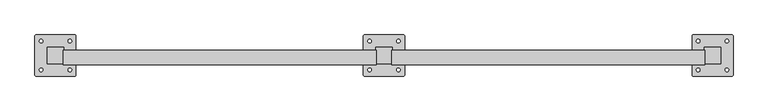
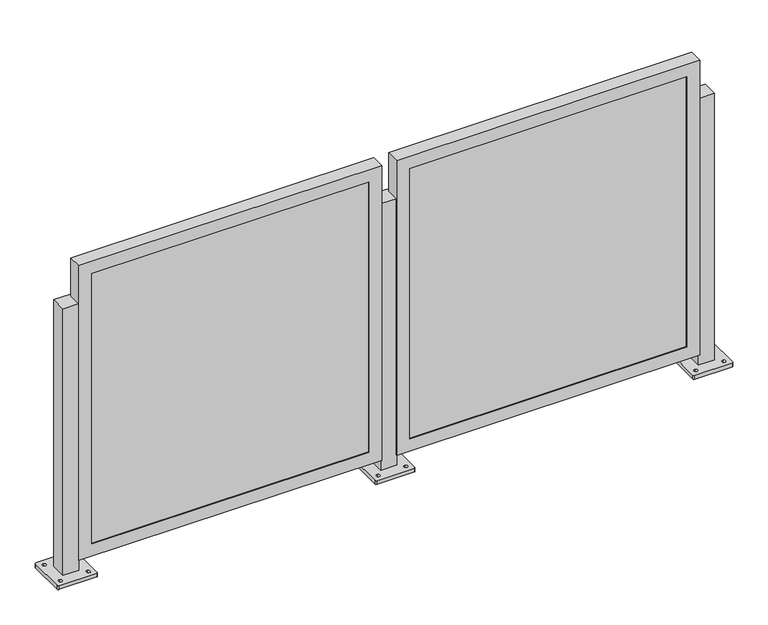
"""IFC4 building model written with IfcOpenShell, lengths in millimetres: railing geometry, Railing - Amico Architectural - Perforated Railing - Crescent."""

from ifc_helpers import new_model, si_unit, frame, origin, place, context, project, spatial, polyline, circle_curve, outline, extrude, faceted_brep, source, transform, mapped, element, save
from ifc_brep_helpers import plane_surface, cylinder_surface, revolved_surface, advanced_brep


def railing_dd76d824(model_context):
    return source(origin(), model_context, "Body", "SolidModel", [
        advanced_brep(
        [(-26967.9348337, -3793.9525624, 914.4), (-26967.9348337, -3844.7525624, 914.4), (-26917.1348337, -3844.7525624, 914.4), (-26917.1348337, -3793.9525624, 914.4), (-27006.0348339, -3879.6775213, 0.0), (-27006.0348339, -3759.0276034, 0.0), (-27002.8598057, -3755.8525752, 0.0), (-26882.2098617, -3755.8525752, 0.0), (-26879.0348335, -3759.0276034, 0.0), (-26879.0348335, -3879.6775213, 0.0), (-26882.2098617, -3882.8525495, 0.0), (-27002.8598057, -3882.8525495, 0.0), (-26986.9848212, -3869.358817, 0.0), (-26986.9848212, -3858.2463046, 0.0), (-26986.9848321, -3780.4588126, 0.0), (-26986.9848321, -3769.346331, 0.0), (-26898.0848203, -3869.3588155, 0.0), (-26898.0848203, -3858.2463048, 0.0), (-26898.0848312, -3780.4588111, 0.0), (-26898.0848312, -3769.3463313, 0.0), (-26967.9348337, -3793.9525624, 12.7), (-26967.9348337, -3844.7525624, 12.7), (-26917.1348337, -3844.7525624, 12.7), (-26917.1348337, -3793.9525624, 12.7), (-27006.0348339, -3879.6775213, 12.7), (-27002.8598057, -3882.8525495, 12.7), (-26882.2098617, -3882.8525495, 12.7), (-26879.0348335, -3879.6775213, 12.7), (-26879.0348335, -3759.0276034, 12.7), (-26882.2098617, -3755.8525752, 12.7), (-27002.8598057, -3755.8525752, 12.7), (-27006.0348339, -3759.0276034, 12.7), (-26986.9848212, -3869.358817, 12.7), (-26986.9848212, -3858.2463046, 12.7), (-26986.9848321, -3780.4588126, 12.7), (-26986.9848321, -3769.346331, 12.7), (-26898.0848203, -3869.3588155, 12.7), (-26898.0848203, -3858.2463048, 12.7), (-26898.0848312, -3780.4588111, 12.7), (-26898.0848312, -3769.3463313, 12.7)],
        [
            (0, 1),
            (1, 2),
            (2, 3),
            (3, 0),
            (4, 5),
            (5, 6, circle_curve(frame((-27002.8598057, -3759.0276034, 0.0), z_axis=(0.0, 0.0, -1.0), x_axis=(0.0, 1.0, 0.0)), 3.1750282)),
            (6, 7),
            (7, 8, circle_curve(frame((-26882.2098617, -3759.0276034, 0.0), z_axis=(0.0, 0.0, -1.0), x_axis=(0.0, 1.0, 0.0)), 3.1750282)),
            (8, 9),
            (9, 10, circle_curve(frame((-26882.2098617, -3879.6775213, 0.0), z_axis=(0.0, 0.0, -1.0), x_axis=(0.0, 1.0, 0.0)), 3.1750282)),
            (10, 11),
            (11, 4, circle_curve(frame((-27002.8598057, -3879.6775213, 0.0), z_axis=(0.0, 0.0, -1.0), x_axis=(0.0, 1.0, 0.0)), 3.1750282)),
            (12, 13, circle_curve(frame((-26986.9848212, -3863.8025608, 0.0), z_axis=(0.0, 0.0, 1.0), x_axis=(0.0, 1.0, 0.0)), 5.5562562)),
            (13, 12, circle_curve(frame((-26986.9848212, -3863.8025608, 0.0), z_axis=(0.0, 0.0, 1.0), x_axis=(0.0, 1.0, 0.0)), 5.5562562)),
            (14, 15, circle_curve(frame((-26986.9848321, -3774.9025718, 0.0), z_axis=(0.0, 0.0, 1.0), x_axis=(0.0, 1.0, 0.0)), 5.5562408)),
            (15, 14, circle_curve(frame((-26986.9848321, -3774.9025718, 0.0), z_axis=(0.0, 0.0, 1.0), x_axis=(0.0, 1.0, 0.0)), 5.5562408)),
            (16, 17, circle_curve(frame((-26898.0848203, -3863.8025601, 0.0), z_axis=(0.0, 0.0, 1.0), x_axis=(0.0, 1.0, 0.0)), 5.5562553)),
            (17, 16, circle_curve(frame((-26898.0848203, -3863.8025601, 0.0), z_axis=(0.0, 0.0, 1.0), x_axis=(0.0, 1.0, 0.0)), 5.5562553)),
            (18, 19, circle_curve(frame((-26898.0848312, -3774.9025712, 0.0), z_axis=(0.0, 0.0, 1.0), x_axis=(0.0, 1.0, 0.0)), 5.5562399)),
            (19, 18, circle_curve(frame((-26898.0848312, -3774.9025712, 0.0), z_axis=(0.0, 0.0, 1.0), x_axis=(0.0, 1.0, 0.0)), 5.5562399)),
            (0, 20),
            (20, 21),
            (21, 1),
            (21, 22),
            (22, 2),
            (22, 23),
            (23, 3),
            (23, 20),
            (24, 25, circle_curve(frame((-27002.8598057, -3879.6775213, 12.7), z_axis=(0.0, 0.0, 1.0), x_axis=(0.0, 1.0, 0.0)), 3.1750282)),
            (25, 26),
            (26, 27, circle_curve(frame((-26882.2098617, -3879.6775213, 12.7), z_axis=(0.0, 0.0, 1.0), x_axis=(0.0, 1.0, 0.0)), 3.1750282)),
            (27, 28),
            (28, 29, circle_curve(frame((-26882.2098617, -3759.0276034, 12.7), z_axis=(0.0, 0.0, 1.0), x_axis=(0.0, 1.0, 0.0)), 3.1750282)),
            (29, 30),
            (30, 31, circle_curve(frame((-27002.8598057, -3759.0276034, 12.7), z_axis=(0.0, 0.0, 1.0), x_axis=(0.0, 1.0, 0.0)), 3.1750282)),
            (31, 24),
            (32, 33, circle_curve(frame((-26986.9848212, -3863.8025608, 12.7), z_axis=(0.0, 0.0, -1.0), x_axis=(0.0, 1.0, 0.0)), 5.5562562)),
            (33, 32, circle_curve(frame((-26986.9848212, -3863.8025608, 12.7), z_axis=(0.0, 0.0, -1.0), x_axis=(0.0, 1.0, 0.0)), 5.5562562)),
            (34, 35, circle_curve(frame((-26986.9848321, -3774.9025718, 12.7), z_axis=(0.0, 0.0, -1.0), x_axis=(0.0, 1.0, 0.0)), 5.5562408)),
            (35, 34, circle_curve(frame((-26986.9848321, -3774.9025718, 12.7), z_axis=(0.0, 0.0, -1.0), x_axis=(0.0, 1.0, 0.0)), 5.5562408)),
            (36, 37, circle_curve(frame((-26898.0848203, -3863.8025601, 12.7), z_axis=(0.0, 0.0, -1.0), x_axis=(0.0, 1.0, 0.0)), 5.5562553)),
            (37, 36, circle_curve(frame((-26898.0848203, -3863.8025601, 12.7), z_axis=(0.0, 0.0, -1.0), x_axis=(0.0, 1.0, 0.0)), 5.5562553)),
            (38, 39, circle_curve(frame((-26898.0848312, -3774.9025712, 12.7), z_axis=(0.0, 0.0, -1.0), x_axis=(0.0, 1.0, 0.0)), 5.5562399)),
            (39, 38, circle_curve(frame((-26898.0848312, -3774.9025712, 12.7), z_axis=(0.0, 0.0, -1.0), x_axis=(0.0, 1.0, 0.0)), 5.5562399)),
            (24, 4),
            (11, 25),
            (10, 26),
            (9, 27),
            (8, 28),
            (7, 29),
            (6, 30),
            (5, 31),
            (32, 12),
            (13, 33),
            (34, 14),
            (15, 35),
            (36, 16),
            (17, 37),
            (38, 18),
            (19, 39),
        ],
        [
            plane_surface(frame((-26967.9348337, -3844.7525624, 914.4), z_axis=(0.0, 0.0, 1.0), x_axis=(0.0, -1.0, 0.0))),
            plane_surface(frame((-26967.9348337, -3844.7525624, 0.0), z_axis=(0.0, 0.0, -1.0), x_axis=(0.0, 1.0, 0.0))),
            plane_surface(frame((-26967.9348337, -3793.9525624, 914.4), z_axis=(-1.0, 0.0, 0.0), x_axis=(0.0, 0.0, -1.0))),
            plane_surface(frame((-26967.9348337, -3844.7525624, 914.4), z_axis=(0.0, -1.0, 0.0), x_axis=(0.0, 0.0, -1.0))),
            plane_surface(frame((-26917.1348337, -3844.7525624, 914.4), z_axis=(1.0, 0.0, 0.0), x_axis=(0.0, 0.0, -1.0))),
            plane_surface(frame((-26917.1348337, -3793.9525624, 914.4), z_axis=(0.0, 1.0, 0.0), x_axis=(0.0, 0.0, -1.0))),
            plane_surface(frame((-27002.8598057, -3876.5024932, 12.7), z_axis=(0.0, 0.0, 1.0), x_axis=(-1.0, 0.0, 0.0))),
            cylinder_surface(frame((-27002.8598057, -3879.6775213, 0.0), z_axis=(0.0, 0.0, 1.0), x_axis=(0.0, 1.0, 0.0)), 3.1750282),
            plane_surface(frame((-27002.8598057, -3882.8525495, 12.7), z_axis=(1.1945386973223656e-12, -1.0, 0.0), x_axis=(0.0, 0.0, -1.0))),
            cylinder_surface(frame((-26882.2098617, -3879.6775213, 0.0), z_axis=(0.0, 0.0, 1.0), x_axis=(0.0, 1.0, 0.0)), 3.1750282),
            plane_surface(frame((-26879.0348335, -3879.6775213, 12.7), z_axis=(1.0, 0.0, 0.0), x_axis=(0.0, 0.0, -1.0))),
            cylinder_surface(frame((-26882.2098617, -3759.0276034, 0.0), z_axis=(0.0, 0.0, 1.0), x_axis=(0.0, 1.0, 0.0)), 3.1750282),
            plane_surface(frame((-26882.2098617, -3755.8525752, 12.7), z_axis=(-1.1946088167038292e-12, 1.0, 0.0), x_axis=(0.0, 0.0, -1.0))),
            cylinder_surface(frame((-27002.8598057, -3759.0276034, 0.0), z_axis=(0.0, 0.0, 1.0), x_axis=(0.0, 1.0, 0.0)), 3.1750282),
            plane_surface(frame((-27006.0348339, -3759.0276034, 12.7), z_axis=(-1.0, 0.0, 0.0), x_axis=(0.0, 0.0, -1.0))),
            revolved_surface(polyline([(-26986.9848212, -3858.2463046, 0.0), (-26986.9848212, -3858.2463046, 12.7)]), (-26986.9848212, -3863.8025608, 0.0), (0.0, 0.0, -1.0)),
            revolved_surface(polyline([(-26986.9848321, -3769.3463309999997, 0.0), (-26986.9848321, -3769.3463309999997, 12.7)]), (-26986.9848321, -3774.9025718, 0.0), (0.0, 0.0, -1.0)),
            revolved_surface(polyline([(-26898.0848203, -3858.2463048, 0.0), (-26898.0848203, -3858.2463048, 12.7)]), (-26898.0848203, -3863.8025601, 0.0), (0.0, 0.0, -1.0)),
            revolved_surface(polyline([(-26898.0848312, -3769.3463312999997, 0.0), (-26898.0848312, -3769.3463312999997, 12.7)]), (-26898.0848312, -3774.9025712, 0.0), (0.0, 0.0, -1.0)),
        ],
        [
            (0, [[1, 2, 3, 4]]),
            (1, [[5, 6, 7, 8, 9, 10, 11, 12], [13, 14], [15, 16], [17, 18], [19, 20]]),
            (2, [[-1, 21, 22, 23]]),
            (3, [[-2, -23, 24, 25]]),
            (4, [[-3, -25, 26, 27]]),
            (5, [[-4, -27, 28, -21]]),
            (6, [[29, 30, 31, 32, 33, 34, 35, 36], [-22, -28, -26, -24], [37, 38], [39, 40], [41, 42], [43, 44]]),
            (7, [[-29, 45, -12, 46]]),
            (8, [[-30, -46, -11, 47]]),
            (9, [[-31, -47, -10, 48]]),
            (10, [[-32, -48, -9, 49]]),
            (11, [[-33, -49, -8, 50]]),
            (12, [[-34, -50, -7, 51]]),
            (13, [[-35, -51, -6, 52]]),
            (14, [[-36, -52, -5, -45]]),
            (15, [[-37, 53, -14, 54]]),
            (15, [[-38, -54, -13, -53]]),
            (16, [[-39, 55, -16, 56]]),
            (16, [[-40, -56, -15, -55]]),
            (17, [[-41, 57, -18, 58]]),
            (17, [[-42, -58, -17, -57]]),
            (18, [[-43, 59, -20, 60]]),
            (18, [[-44, -60, -19, -59]]),
        ],
    ),
        faceted_brep([(-27934.3392871, -3847.4957624, 47.625), (-26965.9642871, -3847.4957624, 47.625), (-26965.9642871, -3847.4957624, 1044.575), (-27934.3392871, -3847.4957624, 1044.575), (-27893.0642871, -3847.4957624, 1003.3), (-27007.2392871, -3847.4957624, 1003.3), (-27007.2392871, -3847.4957624, 88.9), (-27893.0642871, -3847.4957624, 88.9), (-27893.0642871, -3844.7525624, 1003.3), (-27893.0642871, -3844.7525624, 88.9), (-27934.3392871, -3803.6224658, 1044.575), (-27934.3392871, -3803.6224658, 47.625), (-27931.1642871, -3803.6224658, 1041.4), (-27931.1642871, -3844.7525624, 1041.4), (-27931.1642871, -3844.7525624, 50.8), (-27931.1642871, -3803.6224658, 50.8), (-27007.2392871, -3844.7525624, 88.9), (-26965.9642871, -3803.6224658, 47.625), (-26969.1392871, -3844.7525624, 50.8), (-26969.1392871, -3803.6224658, 50.8), (-27007.2392871, -3844.7525624, 1003.3), (-26965.9642871, -3803.6224658, 1044.575), (-26969.1392871, -3844.7525624, 1041.4), (-26969.1392871, -3803.6224658, 1041.4)], [[[0, 1, 2, 3], [4, 5, 6, 7]], [[8, 4, 7, 9]], [[3, 10, 11, 0]], [[12, 13, 14, 15]], [[9, 7, 6, 16]], [[0, 11, 17, 1]], [[15, 14, 18, 19]], [[16, 6, 5, 20]], [[1, 17, 21, 2]], [[19, 18, 22, 23]], [[20, 5, 4, 8]], [[10, 21, 17, 11], [15, 19, 23, 12]], [[2, 21, 10, 3]], [[13, 22, 18, 14], [9, 16, 20, 8]], [[23, 22, 13, 12]]]),
        extrude(outline(polyline([(-27931.1642871, -3835.2275624), (-26969.1392871, -3835.2275624), (-26969.1392871, -3844.7525624), (-27931.1642871, -3844.7525624), (-27931.1642871, -3835.2275624)])), frame((0.0, 0.0, 50.8), z_axis=(0.0, 0.0, 1.0), x_axis=(1.0, 0.0, 0.0)), (0.0, 0.0, 1.0), 990.6),
        advanced_brep(
        [(-27983.9348337, -3793.9525624, 914.4), (-27983.9348337, -3844.7525624, 914.4), (-27933.1348337, -3844.7525624, 914.4), (-27933.1348337, -3793.9525624, 914.4), (-28022.0348339, -3879.6775213, 0.0), (-28022.0348339, -3759.0276034, 0.0), (-28018.8598057, -3755.8525752, 0.0), (-27898.2098617, -3755.8525752, 0.0), (-27895.0348335, -3759.0276034, 0.0), (-27895.0348335, -3879.6775213, 0.0), (-27898.2098617, -3882.8525495, 0.0), (-28018.8598057, -3882.8525495, 0.0), (-28002.9848212, -3869.358817, 0.0), (-28002.9848212, -3858.2463046, 0.0), (-28002.9848321, -3780.4588126, 0.0), (-28002.9848321, -3769.346331, 0.0), (-27914.0848203, -3869.3588155, 0.0), (-27914.0848203, -3858.2463048, 0.0), (-27914.0848312, -3780.4588111, 0.0), (-27914.0848312, -3769.3463313, 0.0), (-27983.9348337, -3793.9525624, 12.7), (-27983.9348337, -3844.7525624, 12.7), (-27933.1348337, -3844.7525624, 12.7), (-27933.1348337, -3793.9525624, 12.7), (-28022.0348339, -3879.6775213, 12.7), (-28018.8598057, -3882.8525495, 12.7), (-27898.2098617, -3882.8525495, 12.7), (-27895.0348335, -3879.6775213, 12.7), (-27895.0348335, -3759.0276034, 12.7), (-27898.2098617, -3755.8525752, 12.7), (-28018.8598057, -3755.8525752, 12.7), (-28022.0348339, -3759.0276034, 12.7), (-28002.9848212, -3869.358817, 12.7), (-28002.9848212, -3858.2463046, 12.7), (-28002.9848321, -3780.4588126, 12.7), (-28002.9848321, -3769.346331, 12.7), (-27914.0848203, -3869.3588155, 12.7), (-27914.0848203, -3858.2463048, 12.7), (-27914.0848312, -3780.4588111, 12.7), (-27914.0848312, -3769.3463313, 12.7)],
        [
            (0, 1),
            (1, 2),
            (2, 3),
            (3, 0),
            (4, 5),
            (5, 6, circle_curve(frame((-28018.8598057, -3759.0276034, 0.0), z_axis=(0.0, 0.0, -1.0), x_axis=(0.0, 1.0, 0.0)), 3.1750282)),
            (6, 7),
            (7, 8, circle_curve(frame((-27898.2098617, -3759.0276034, 0.0), z_axis=(0.0, 0.0, -1.0), x_axis=(0.0, 1.0, 0.0)), 3.1750282)),
            (8, 9),
            (9, 10, circle_curve(frame((-27898.2098617, -3879.6775213, 0.0), z_axis=(0.0, 0.0, -1.0), x_axis=(0.0, 1.0, 0.0)), 3.1750282)),
            (10, 11),
            (11, 4, circle_curve(frame((-28018.8598057, -3879.6775213, 0.0), z_axis=(0.0, 0.0, -1.0), x_axis=(0.0, 1.0, 0.0)), 3.1750282)),
            (12, 13, circle_curve(frame((-28002.9848212, -3863.8025608, 0.0), z_axis=(0.0, 0.0, 1.0), x_axis=(0.0, 1.0, 0.0)), 5.5562562)),
            (13, 12, circle_curve(frame((-28002.9848212, -3863.8025608, 0.0), z_axis=(0.0, 0.0, 1.0), x_axis=(0.0, 1.0, 0.0)), 5.5562562)),
            (14, 15, circle_curve(frame((-28002.9848321, -3774.9025718, 0.0), z_axis=(0.0, 0.0, 1.0), x_axis=(0.0, 1.0, 0.0)), 5.5562408)),
            (15, 14, circle_curve(frame((-28002.9848321, -3774.9025718, 0.0), z_axis=(0.0, 0.0, 1.0), x_axis=(0.0, 1.0, 0.0)), 5.5562408)),
            (16, 17, circle_curve(frame((-27914.0848203, -3863.8025601, 0.0), z_axis=(0.0, 0.0, 1.0), x_axis=(0.0, 1.0, 0.0)), 5.5562553)),
            (17, 16, circle_curve(frame((-27914.0848203, -3863.8025601, 0.0), z_axis=(0.0, 0.0, 1.0), x_axis=(0.0, 1.0, 0.0)), 5.5562553)),
            (18, 19, circle_curve(frame((-27914.0848312, -3774.9025712, 0.0), z_axis=(0.0, 0.0, 1.0), x_axis=(0.0, 1.0, 0.0)), 5.5562399)),
            (19, 18, circle_curve(frame((-27914.0848312, -3774.9025712, 0.0), z_axis=(0.0, 0.0, 1.0), x_axis=(0.0, 1.0, 0.0)), 5.5562399)),
            (0, 20),
            (20, 21),
            (21, 1),
            (21, 22),
            (22, 2),
            (22, 23),
            (23, 3),
            (23, 20),
            (24, 25, circle_curve(frame((-28018.8598057, -3879.6775213, 12.7), z_axis=(0.0, 0.0, 1.0), x_axis=(0.0, 1.0, 0.0)), 3.1750282)),
            (25, 26),
            (26, 27, circle_curve(frame((-27898.2098617, -3879.6775213, 12.7), z_axis=(0.0, 0.0, 1.0), x_axis=(0.0, 1.0, 0.0)), 3.1750282)),
            (27, 28),
            (28, 29, circle_curve(frame((-27898.2098617, -3759.0276034, 12.7), z_axis=(0.0, 0.0, 1.0), x_axis=(0.0, 1.0, 0.0)), 3.1750282)),
            (29, 30),
            (30, 31, circle_curve(frame((-28018.8598057, -3759.0276034, 12.7), z_axis=(0.0, 0.0, 1.0), x_axis=(0.0, 1.0, 0.0)), 3.1750282)),
            (31, 24),
            (32, 33, circle_curve(frame((-28002.9848212, -3863.8025608, 12.7), z_axis=(0.0, 0.0, -1.0), x_axis=(0.0, 1.0, 0.0)), 5.5562562)),
            (33, 32, circle_curve(frame((-28002.9848212, -3863.8025608, 12.7), z_axis=(0.0, 0.0, -1.0), x_axis=(0.0, 1.0, 0.0)), 5.5562562)),
            (34, 35, circle_curve(frame((-28002.9848321, -3774.9025718, 12.7), z_axis=(0.0, 0.0, -1.0), x_axis=(0.0, 1.0, 0.0)), 5.5562408)),
            (35, 34, circle_curve(frame((-28002.9848321, -3774.9025718, 12.7), z_axis=(0.0, 0.0, -1.0), x_axis=(0.0, 1.0, 0.0)), 5.5562408)),
            (36, 37, circle_curve(frame((-27914.0848203, -3863.8025601, 12.7), z_axis=(0.0, 0.0, -1.0), x_axis=(0.0, 1.0, 0.0)), 5.5562553)),
            (37, 36, circle_curve(frame((-27914.0848203, -3863.8025601, 12.7), z_axis=(0.0, 0.0, -1.0), x_axis=(0.0, 1.0, 0.0)), 5.5562553)),
            (38, 39, circle_curve(frame((-27914.0848312, -3774.9025712, 12.7), z_axis=(0.0, 0.0, -1.0), x_axis=(0.0, 1.0, 0.0)), 5.5562399)),
            (39, 38, circle_curve(frame((-27914.0848312, -3774.9025712, 12.7), z_axis=(0.0, 0.0, -1.0), x_axis=(0.0, 1.0, 0.0)), 5.5562399)),
            (24, 4),
            (11, 25),
            (10, 26),
            (9, 27),
            (8, 28),
            (7, 29),
            (6, 30),
            (5, 31),
            (32, 12),
            (13, 33),
            (34, 14),
            (15, 35),
            (36, 16),
            (17, 37),
            (38, 18),
            (19, 39),
        ],
        [
            plane_surface(frame((-27983.9348337, -3844.7525624, 914.4), z_axis=(0.0, 0.0, 1.0), x_axis=(0.0, -1.0, 0.0))),
            plane_surface(frame((-27983.9348337, -3844.7525624, 0.0), z_axis=(0.0, 0.0, -1.0), x_axis=(0.0, 1.0, 0.0))),
            plane_surface(frame((-27983.9348337, -3793.9525624, 914.4), z_axis=(-1.0, 0.0, 0.0), x_axis=(0.0, 0.0, -1.0))),
            plane_surface(frame((-27983.9348337, -3844.7525624, 914.4), z_axis=(0.0, -1.0, 0.0), x_axis=(0.0, 0.0, -1.0))),
            plane_surface(frame((-27933.1348337, -3844.7525624, 914.4), z_axis=(1.0, 0.0, 0.0), x_axis=(0.0, 0.0, -1.0))),
            plane_surface(frame((-27933.1348337, -3793.9525624, 914.4), z_axis=(0.0, 1.0, 0.0), x_axis=(0.0, 0.0, -1.0))),
            plane_surface(frame((-28018.8598057, -3876.5024932, 12.7), z_axis=(0.0, 0.0, 1.0), x_axis=(-1.0, 0.0, 0.0))),
            cylinder_surface(frame((-28018.8598057, -3879.6775213, 0.0), z_axis=(0.0, 0.0, 1.0), x_axis=(0.0, 1.0, 0.0)), 3.1750282),
            plane_surface(frame((-28018.8598057, -3882.8525495, 12.7), z_axis=(1.1945386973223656e-12, -1.0, 0.0), x_axis=(0.0, 0.0, -1.0))),
            cylinder_surface(frame((-27898.2098617, -3879.6775213, 0.0), z_axis=(0.0, 0.0, 1.0), x_axis=(0.0, 1.0, 0.0)), 3.1750282),
            plane_surface(frame((-27895.0348335, -3879.6775213, 12.7), z_axis=(1.0, 0.0, 0.0), x_axis=(0.0, 0.0, -1.0))),
            cylinder_surface(frame((-27898.2098617, -3759.0276034, 0.0), z_axis=(0.0, 0.0, 1.0), x_axis=(0.0, 1.0, 0.0)), 3.1750282),
            plane_surface(frame((-27898.2098617, -3755.8525752, 12.7), z_axis=(-1.1946088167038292e-12, 1.0, 0.0), x_axis=(0.0, 0.0, -1.0))),
            cylinder_surface(frame((-28018.8598057, -3759.0276034, 0.0), z_axis=(0.0, 0.0, 1.0), x_axis=(0.0, 1.0, 0.0)), 3.1750282),
            plane_surface(frame((-28022.0348339, -3759.0276034, 12.7), z_axis=(-1.0, 0.0, 0.0), x_axis=(0.0, 0.0, -1.0))),
            revolved_surface(polyline([(-28002.9848212, -3858.2463046, 0.0), (-28002.9848212, -3858.2463046, 12.7)]), (-28002.9848212, -3863.8025608, 0.0), (0.0, 0.0, -1.0)),
            revolved_surface(polyline([(-28002.9848321, -3769.3463309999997, 0.0), (-28002.9848321, -3769.3463309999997, 12.7)]), (-28002.9848321, -3774.9025718, 0.0), (0.0, 0.0, -1.0)),
            revolved_surface(polyline([(-27914.0848203, -3858.2463048, 0.0), (-27914.0848203, -3858.2463048, 12.7)]), (-27914.0848203, -3863.8025601, 0.0), (0.0, 0.0, -1.0)),
            revolved_surface(polyline([(-27914.0848312, -3769.3463312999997, 0.0), (-27914.0848312, -3769.3463312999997, 12.7)]), (-27914.0848312, -3774.9025712, 0.0), (0.0, 0.0, -1.0)),
        ],
        [
            (0, [[1, 2, 3, 4]]),
            (1, [[5, 6, 7, 8, 9, 10, 11, 12], [13, 14], [15, 16], [17, 18], [19, 20]]),
            (2, [[-1, 21, 22, 23]]),
            (3, [[-2, -23, 24, 25]]),
            (4, [[-3, -25, 26, 27]]),
            (5, [[-4, -27, 28, -21]]),
            (6, [[29, 30, 31, 32, 33, 34, 35, 36], [-22, -28, -26, -24], [37, 38], [39, 40], [41, 42], [43, 44]]),
            (7, [[-29, 45, -12, 46]]),
            (8, [[-30, -46, -11, 47]]),
            (9, [[-31, -47, -10, 48]]),
            (10, [[-32, -48, -9, 49]]),
            (11, [[-33, -49, -8, 50]]),
            (12, [[-34, -50, -7, 51]]),
            (13, [[-35, -51, -6, 52]]),
            (14, [[-36, -52, -5, -45]]),
            (15, [[-37, 53, -14, 54]]),
            (15, [[-38, -54, -13, -53]]),
            (16, [[-39, 55, -16, 56]]),
            (16, [[-40, -56, -15, -55]]),
            (17, [[-41, 57, -18, 58]]),
            (17, [[-42, -58, -17, -57]]),
            (18, [[-43, 59, -20, 60]]),
            (18, [[-44, -60, -19, -59]]),
        ],
    ),
        faceted_brep([(-28950.3392871, -3847.4957624, 47.625), (-27981.9642871, -3847.4957624, 47.625), (-27981.9642871, -3847.4957624, 1044.575), (-28950.3392871, -3847.4957624, 1044.575), (-28909.0642871, -3847.4957624, 1003.3), (-28023.2392871, -3847.4957624, 1003.3), (-28023.2392871, -3847.4957624, 88.9), (-28909.0642871, -3847.4957624, 88.9), (-28909.0642871, -3844.7525624, 1003.3), (-28909.0642871, -3844.7525624, 88.9), (-28950.3392871, -3803.6224658, 1044.575), (-28950.3392871, -3803.6224658, 47.625), (-28947.1642871, -3803.6224658, 1041.4), (-28947.1642871, -3844.7525624, 1041.4), (-28947.1642871, -3844.7525624, 50.8), (-28947.1642871, -3803.6224658, 50.8), (-28023.2392871, -3844.7525624, 88.9), (-27981.9642871, -3803.6224658, 47.625), (-27985.1392871, -3844.7525624, 50.8), (-27985.1392871, -3803.6224658, 50.8), (-28023.2392871, -3844.7525624, 1003.3), (-27981.9642871, -3803.6224658, 1044.575), (-27985.1392871, -3844.7525624, 1041.4), (-27985.1392871, -3803.6224658, 1041.4)], [[[0, 1, 2, 3], [4, 5, 6, 7]], [[8, 4, 7, 9]], [[3, 10, 11, 0]], [[12, 13, 14, 15]], [[9, 7, 6, 16]], [[0, 11, 17, 1]], [[15, 14, 18, 19]], [[16, 6, 5, 20]], [[1, 17, 21, 2]], [[19, 18, 22, 23]], [[20, 5, 4, 8]], [[10, 21, 17, 11], [15, 19, 23, 12]], [[2, 21, 10, 3]], [[13, 22, 18, 14], [9, 16, 20, 8]], [[23, 22, 13, 12]]]),
        extrude(outline(polyline([(-28947.1642871, -3835.2275624), (-27985.1392871, -3835.2275624), (-27985.1392871, -3844.7525624), (-28947.1642871, -3844.7525624), (-28947.1642871, -3835.2275624)])), frame((0.0, 0.0, 50.8), z_axis=(0.0, 0.0, 1.0), x_axis=(1.0, 0.0, 0.0)), (0.0, 0.0, 1.0), 990.6),
        advanced_brep(
        [(-28999.9348337, -3793.9525624, 914.4), (-28999.9348337, -3844.7525624, 914.4), (-28949.1348337, -3844.7525624, 914.4), (-28949.1348337, -3793.9525624, 914.4), (-29038.0348339, -3879.6775213, 0.0), (-29038.0348339, -3759.0276034, 0.0), (-29034.8598057, -3755.8525752, 0.0), (-28914.2098617, -3755.8525752, 0.0), (-28911.0348335, -3759.0276034, 0.0), (-28911.0348335, -3879.6775213, 0.0), (-28914.2098617, -3882.8525495, 0.0), (-29034.8598057, -3882.8525495, 0.0), (-29018.9848212, -3869.358817, 0.0), (-29018.9848212, -3858.2463046, 0.0), (-29018.9848321, -3780.4588126, 0.0), (-29018.9848321, -3769.346331, 0.0), (-28930.0848203, -3869.3588155, 0.0), (-28930.0848203, -3858.2463048, 0.0), (-28930.0848312, -3780.4588111, 0.0), (-28930.0848312, -3769.3463313, 0.0), (-28999.9348337, -3793.9525624, 12.7), (-28999.9348337, -3844.7525624, 12.7), (-28949.1348337, -3844.7525624, 12.7), (-28949.1348337, -3793.9525624, 12.7), (-29038.0348339, -3879.6775213, 12.7), (-29034.8598057, -3882.8525495, 12.7), (-28914.2098617, -3882.8525495, 12.7), (-28911.0348335, -3879.6775213, 12.7), (-28911.0348335, -3759.0276034, 12.7), (-28914.2098617, -3755.8525752, 12.7), (-29034.8598057, -3755.8525752, 12.7), (-29038.0348339, -3759.0276034, 12.7), (-29018.9848212, -3869.358817, 12.7), (-29018.9848212, -3858.2463046, 12.7), (-29018.9848321, -3780.4588126, 12.7), (-29018.9848321, -3769.346331, 12.7), (-28930.0848203, -3869.3588155, 12.7), (-28930.0848203, -3858.2463048, 12.7), (-28930.0848312, -3780.4588111, 12.7), (-28930.0848312, -3769.3463313, 12.7)],
        [
            (0, 1),
            (1, 2),
            (2, 3),
            (3, 0),
            (4, 5),
            (5, 6, circle_curve(frame((-29034.8598057, -3759.0276034, 0.0), z_axis=(0.0, 0.0, -1.0), x_axis=(0.0, 1.0, 0.0)), 3.1750282)),
            (6, 7),
            (7, 8, circle_curve(frame((-28914.2098617, -3759.0276034, 0.0), z_axis=(0.0, 0.0, -1.0), x_axis=(0.0, 1.0, 0.0)), 3.1750282)),
            (8, 9),
            (9, 10, circle_curve(frame((-28914.2098617, -3879.6775213, 0.0), z_axis=(0.0, 0.0, -1.0), x_axis=(0.0, 1.0, 0.0)), 3.1750282)),
            (10, 11),
            (11, 4, circle_curve(frame((-29034.8598057, -3879.6775213, 0.0), z_axis=(0.0, 0.0, -1.0), x_axis=(0.0, 1.0, 0.0)), 3.1750282)),
            (12, 13, circle_curve(frame((-29018.9848212, -3863.8025608, 0.0), z_axis=(0.0, 0.0, 1.0), x_axis=(0.0, 1.0, 0.0)), 5.5562562)),
            (13, 12, circle_curve(frame((-29018.9848212, -3863.8025608, 0.0), z_axis=(0.0, 0.0, 1.0), x_axis=(0.0, 1.0, 0.0)), 5.5562562)),
            (14, 15, circle_curve(frame((-29018.9848321, -3774.9025718, 0.0), z_axis=(0.0, 0.0, 1.0), x_axis=(0.0, 1.0, 0.0)), 5.5562408)),
            (15, 14, circle_curve(frame((-29018.9848321, -3774.9025718, 0.0), z_axis=(0.0, 0.0, 1.0), x_axis=(0.0, 1.0, 0.0)), 5.5562408)),
            (16, 17, circle_curve(frame((-28930.0848203, -3863.8025601, 0.0), z_axis=(0.0, 0.0, 1.0), x_axis=(0.0, 1.0, 0.0)), 5.5562553)),
            (17, 16, circle_curve(frame((-28930.0848203, -3863.8025601, 0.0), z_axis=(0.0, 0.0, 1.0), x_axis=(0.0, 1.0, 0.0)), 5.5562553)),
            (18, 19, circle_curve(frame((-28930.0848312, -3774.9025712, 0.0), z_axis=(0.0, 0.0, 1.0), x_axis=(0.0, 1.0, 0.0)), 5.5562399)),
            (19, 18, circle_curve(frame((-28930.0848312, -3774.9025712, 0.0), z_axis=(0.0, 0.0, 1.0), x_axis=(0.0, 1.0, 0.0)), 5.5562399)),
            (0, 20),
            (20, 21),
            (21, 1),
            (21, 22),
            (22, 2),
            (22, 23),
            (23, 3),
            (23, 20),
            (24, 25, circle_curve(frame((-29034.8598057, -3879.6775213, 12.7), z_axis=(0.0, 0.0, 1.0), x_axis=(0.0, 1.0, 0.0)), 3.1750282)),
            (25, 26),
            (26, 27, circle_curve(frame((-28914.2098617, -3879.6775213, 12.7), z_axis=(0.0, 0.0, 1.0), x_axis=(0.0, 1.0, 0.0)), 3.1750282)),
            (27, 28),
            (28, 29, circle_curve(frame((-28914.2098617, -3759.0276034, 12.7), z_axis=(0.0, 0.0, 1.0), x_axis=(0.0, 1.0, 0.0)), 3.1750282)),
            (29, 30),
            (30, 31, circle_curve(frame((-29034.8598057, -3759.0276034, 12.7), z_axis=(0.0, 0.0, 1.0), x_axis=(0.0, 1.0, 0.0)), 3.1750282)),
            (31, 24),
            (32, 33, circle_curve(frame((-29018.9848212, -3863.8025608, 12.7), z_axis=(0.0, 0.0, -1.0), x_axis=(0.0, 1.0, 0.0)), 5.5562562)),
            (33, 32, circle_curve(frame((-29018.9848212, -3863.8025608, 12.7), z_axis=(0.0, 0.0, -1.0), x_axis=(0.0, 1.0, 0.0)), 5.5562562)),
            (34, 35, circle_curve(frame((-29018.9848321, -3774.9025718, 12.7), z_axis=(0.0, 0.0, -1.0), x_axis=(0.0, 1.0, 0.0)), 5.5562408)),
            (35, 34, circle_curve(frame((-29018.9848321, -3774.9025718, 12.7), z_axis=(0.0, 0.0, -1.0), x_axis=(0.0, 1.0, 0.0)), 5.5562408)),
            (36, 37, circle_curve(frame((-28930.0848203, -3863.8025601, 12.7), z_axis=(0.0, 0.0, -1.0), x_axis=(0.0, 1.0, 0.0)), 5.5562553)),
            (37, 36, circle_curve(frame((-28930.0848203, -3863.8025601, 12.7), z_axis=(0.0, 0.0, -1.0), x_axis=(0.0, 1.0, 0.0)), 5.5562553)),
            (38, 39, circle_curve(frame((-28930.0848312, -3774.9025712, 12.7), z_axis=(0.0, 0.0, -1.0), x_axis=(0.0, 1.0, 0.0)), 5.5562399)),
            (39, 38, circle_curve(frame((-28930.0848312, -3774.9025712, 12.7), z_axis=(0.0, 0.0, -1.0), x_axis=(0.0, 1.0, 0.0)), 5.5562399)),
            (24, 4),
            (11, 25),
            (10, 26),
            (9, 27),
            (8, 28),
            (7, 29),
            (6, 30),
            (5, 31),
            (32, 12),
            (13, 33),
            (34, 14),
            (15, 35),
            (36, 16),
            (17, 37),
            (38, 18),
            (19, 39),
        ],
        [
            plane_surface(frame((-28999.9348337, -3844.7525624, 914.4), z_axis=(0.0, 0.0, 1.0), x_axis=(0.0, -1.0, 0.0))),
            plane_surface(frame((-28999.9348337, -3844.7525624, 0.0), z_axis=(0.0, 0.0, -1.0), x_axis=(0.0, 1.0, 0.0))),
            plane_surface(frame((-28999.9348337, -3793.9525624, 914.4), z_axis=(-1.0, 0.0, 0.0), x_axis=(0.0, 0.0, -1.0))),
            plane_surface(frame((-28999.9348337, -3844.7525624, 914.4), z_axis=(0.0, -1.0, 0.0), x_axis=(0.0, 0.0, -1.0))),
            plane_surface(frame((-28949.1348337, -3844.7525624, 914.4), z_axis=(1.0, 0.0, 0.0), x_axis=(0.0, 0.0, -1.0))),
            plane_surface(frame((-28949.1348337, -3793.9525624, 914.4), z_axis=(0.0, 1.0, 0.0), x_axis=(0.0, 0.0, -1.0))),
            plane_surface(frame((-29034.8598057, -3876.5024932, 12.7), z_axis=(0.0, 0.0, 1.0), x_axis=(-1.0, 0.0, 0.0))),
            cylinder_surface(frame((-29034.8598057, -3879.6775213, 0.0), z_axis=(0.0, 0.0, 1.0), x_axis=(0.0, 1.0, 0.0)), 3.1750282),
            plane_surface(frame((-29034.8598057, -3882.8525495, 12.7), z_axis=(1.1945386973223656e-12, -1.0, 0.0), x_axis=(0.0, 0.0, -1.0))),
            cylinder_surface(frame((-28914.2098617, -3879.6775213, 0.0), z_axis=(0.0, 0.0, 1.0), x_axis=(0.0, 1.0, 0.0)), 3.1750282),
            plane_surface(frame((-28911.0348335, -3879.6775213, 12.7), z_axis=(1.0, 0.0, 0.0), x_axis=(0.0, 0.0, -1.0))),
            cylinder_surface(frame((-28914.2098617, -3759.0276034, 0.0), z_axis=(0.0, 0.0, 1.0), x_axis=(0.0, 1.0, 0.0)), 3.1750282),
            plane_surface(frame((-28914.2098617, -3755.8525752, 12.7), z_axis=(-1.1946088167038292e-12, 1.0, 0.0), x_axis=(0.0, 0.0, -1.0))),
            cylinder_surface(frame((-29034.8598057, -3759.0276034, 0.0), z_axis=(0.0, 0.0, 1.0), x_axis=(0.0, 1.0, 0.0)), 3.1750282),
            plane_surface(frame((-29038.0348339, -3759.0276034, 12.7), z_axis=(-1.0, 0.0, 0.0), x_axis=(0.0, 0.0, -1.0))),
            revolved_surface(polyline([(-29018.9848212, -3858.2463046, 0.0), (-29018.9848212, -3858.2463046, 12.7)]), (-29018.9848212, -3863.8025608, 0.0), (0.0, 0.0, -1.0)),
            revolved_surface(polyline([(-29018.9848321, -3769.3463309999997, 0.0), (-29018.9848321, -3769.3463309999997, 12.7)]), (-29018.9848321, -3774.9025718, 0.0), (0.0, 0.0, -1.0)),
            revolved_surface(polyline([(-28930.0848203, -3858.2463048, 0.0), (-28930.0848203, -3858.2463048, 12.7)]), (-28930.0848203, -3863.8025601, 0.0), (0.0, 0.0, -1.0)),
            revolved_surface(polyline([(-28930.0848312, -3769.3463312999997, 0.0), (-28930.0848312, -3769.3463312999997, 12.7)]), (-28930.0848312, -3774.9025712, 0.0), (0.0, 0.0, -1.0)),
        ],
        [
            (0, [[1, 2, 3, 4]]),
            (1, [[5, 6, 7, 8, 9, 10, 11, 12], [13, 14], [15, 16], [17, 18], [19, 20]]),
            (2, [[-1, 21, 22, 23]]),
            (3, [[-2, -23, 24, 25]]),
            (4, [[-3, -25, 26, 27]]),
            (5, [[-4, -27, 28, -21]]),
            (6, [[29, 30, 31, 32, 33, 34, 35, 36], [-22, -28, -26, -24], [37, 38], [39, 40], [41, 42], [43, 44]]),
            (7, [[-29, 45, -12, 46]]),
            (8, [[-30, -46, -11, 47]]),
            (9, [[-31, -47, -10, 48]]),
            (10, [[-32, -48, -9, 49]]),
            (11, [[-33, -49, -8, 50]]),
            (12, [[-34, -50, -7, 51]]),
            (13, [[-35, -51, -6, 52]]),
            (14, [[-36, -52, -5, -45]]),
            (15, [[-37, 53, -14, 54]]),
            (15, [[-38, -54, -13, -53]]),
            (16, [[-39, 55, -16, 56]]),
            (16, [[-40, -56, -15, -55]]),
            (17, [[-41, 57, -18, 58]]),
            (17, [[-42, -58, -17, -57]]),
            (18, [[-43, 59, -20, 60]]),
            (18, [[-44, -60, -19, -59]]),
        ],
    ),
    ])


if __name__ == "__main__":
    model = new_model("IFC4")
    model_context = context("Model", 3, world=origin())
    ifc_project = project(units=[si_unit("LENGTHUNIT", "METRE", prefix="MILLI")], contexts=[model_context])
    site = spatial("IfcSite", under=ifc_project)
    building = spatial("IfcBuilding", under=site)
    placement = place(None, origin())
    railing_shape = railing_dd76d824(model_context)
    element("IfcRailing", 1, ObjectType="Railing - Amico Architectural - Perforated Railing - Crescent", at=placement, inside=building, context=model_context, shape_type="MappedRepresentation", body=[
        mapped(railing_shape, transform((0.0, 0.0, 0.0), x_axis=(1.0, 0.0, 0.0), y_axis=(0.0, 1.0, 0.0), z_axis=(0.0, 0.0, 1.0))),
    ])
    save(model, "model.ifc")
